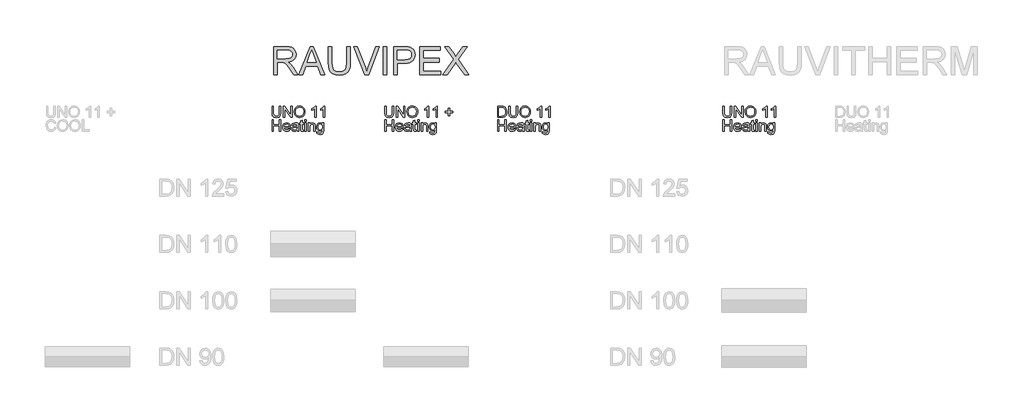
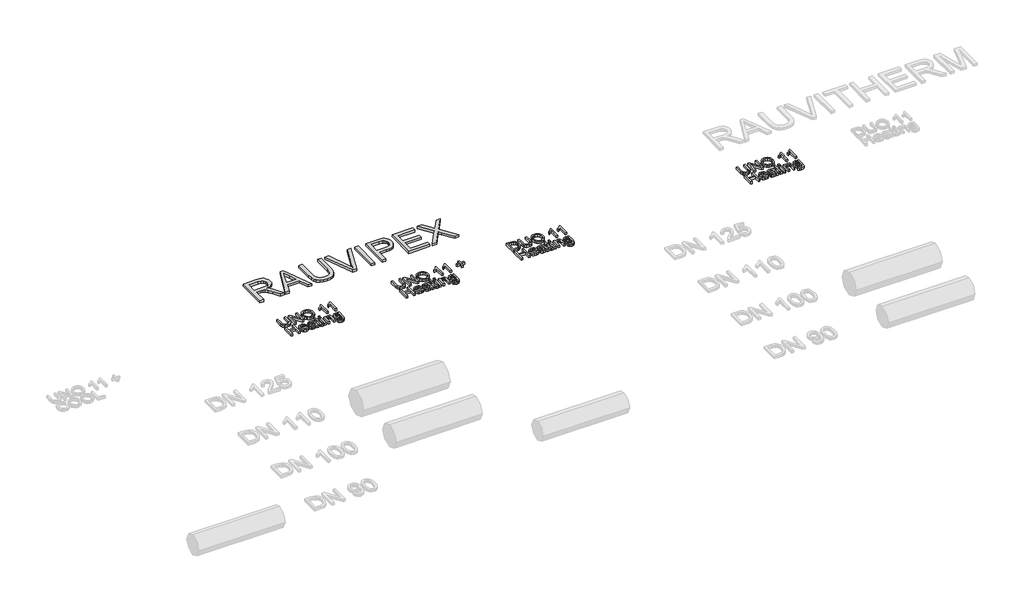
# One storey, part 38 of 44: 5 proxies.
"""IFC4 building model written with IfcOpenShell, lengths in millimetres."""

import ifcopenshell
import ifcopenshell.guid

model = None  # the IFC model being written
_history = None  # IfcOwnerHistory: only IFC2X3 demands one
_inside = {}  # id of a spatial element -> (the spatial element, [elements in it])
_under = {}  # id of a project, library or spatial element -> (it, [spatial elements below it])
_declared = {}  # id of a project -> (the project, [libraries it declares])
_typed = {}  # id of a type object -> (the type object, [elements of that type])
_made_of = {}  # id of a material, layer set ... -> (it, [elements and type objects made of it])


def new_model(schema):
    """Start an empty IFC model of exactly this schema.

    Asked for "IFC4X3", IfcOpenShell would pick the latest addendum, in which some entities
    have other attributes; the version numbers below select the first issue.
    IFC2X3 requires an IfcOwnerHistory on every rooted entity: one is made here for all.
    """
    global model, _history
    if schema == "IFC4X3":
        model = ifcopenshell.file(schema_version=(4, 3, 0, 0))
    else:
        model = ifcopenshell.file(schema=schema)
    _inside.clear()
    _under.clear()
    _declared.clear()
    _typed.clear()
    _made_of.clear()
    _history = None
    if model.schema == "IFC2X3":
        org = make("IfcOrganization", Name="unknown")
        user = make(
            "IfcPersonAndOrganization",
            ThePerson=make("IfcPerson", FamilyName="unknown"),
            TheOrganization=org,
        )
        app = make(
            "IfcApplication",
            ApplicationDeveloper=org,
            Version="unknown",
            ApplicationFullName="unknown",
            ApplicationIdentifier="unknown",
        )
        _history = make(
            "IfcOwnerHistory",
            OwningUser=user,
            OwningApplication=app,
            ChangeAction="ADDED",
            CreationDate=0,
        )
    return model


def make(cls, **values):
    """One entity of the class cls with the attributes given. An attribute that is None is left unset."""
    return model.create_entity(
        cls, **{name: value for name, value in values.items() if value is not None}
    )


def rooted(cls, **values):
    """An entity with a GlobalId (a new one), such as an element, a storey or a relation."""
    return make(cls, GlobalId=ifcopenshell.guid.new(), OwnerHistory=_history, **values)


def si_unit(unit_type, name, prefix=None):
    """IfcSIUnit, for example si_unit("LENGTHUNIT", "METRE", prefix="MILLI")."""
    return make("IfcSIUnit", UnitType=unit_type, Prefix=prefix, Name=name)


def assignment(units):
    """IfcUnitAssignment: the units of a project."""
    return None if units is None else make("IfcUnitAssignment", Units=units)


def point(xyz):
    """IfcCartesianPoint."""
    return None if xyz is None else make("IfcCartesianPoint", Coordinates=xyz)


def direction(xyz):
    """IfcDirection."""
    return None if xyz is None else make("IfcDirection", DirectionRatios=xyz)


def frame(location, z_axis=None, x_axis=None):
    """IfcAxis2Placement3D, a coordinate frame: its origin and axes. An axis left out is left unset."""
    return make(
        "IfcAxis2Placement3D",
        Location=point(location),
        Axis=direction(z_axis),
        RefDirection=direction(x_axis),
    )


def origin():
    """The frame at (0, 0, 0) with its axes left unset."""
    return frame((0.0, 0.0, 0.0))


def origin_with_axes():
    """The frame at (0, 0, 0) with the z axis (0, 0, 1) and the x axis (1, 0, 0) written out."""
    return frame((0.0, 0.0, 0.0), z_axis=(0.0, 0.0, 1.0), x_axis=(1.0, 0.0, 0.0))


def place(relative_to, where):
    """IfcLocalPlacement: puts the frame where relative to a parent placement (None: the world)."""
    return make(
        "IfcLocalPlacement", PlacementRelTo=relative_to, RelativePlacement=where
    )


def context(
    kind, dimensions, precision=None, world=None, true_north=None, identifier=None
):
    """IfcGeometricRepresentationContext, for example the 3D "Model" context."""
    return make(
        "IfcGeometricRepresentationContext",
        ContextIdentifier=identifier,
        ContextType=kind,
        CoordinateSpaceDimension=dimensions,
        Precision=precision,
        WorldCoordinateSystem=world,
        TrueNorth=true_north,
    )


def project(units=None, contexts=None):
    """IfcProject with its units and contexts."""
    return rooted(
        "IfcProject",
        Name="project",
        RepresentationContexts=contexts,
        UnitsInContext=assignment(units),
    )


def spatial(cls, under=None, at=None, **own):
    """A site, building, storey or space (cls), placed at a placement, below another one or the project."""
    s = rooted(cls, ObjectPlacement=at, **own)
    if under is not None:
        _under.setdefault(under.id(), (under, []))[1].append(s)
    return s


def polyline(points):
    """IfcPolyline through the points."""
    return make("IfcPolyline", Points=[point(p) for p in points])


def outline(outer, holes=None, kind="AREA"):
    """IfcArbitraryClosedProfileDef: a profile drawn as a closed curve; with holes, ...WithVoids."""
    if holes is None:
        return make("IfcArbitraryClosedProfileDef", ProfileType=kind, OuterCurve=outer)
    return make(
        "IfcArbitraryProfileDefWithVoids",
        ProfileType=kind,
        OuterCurve=outer,
        InnerCurves=holes,
    )


def extrude(swept, where, along, depth):
    """IfcExtrudedAreaSolid: the profile swept, set in the frame where, extruded along a direction by depth."""
    return make(
        "IfcExtrudedAreaSolid",
        SweptArea=swept,
        Position=where,
        ExtrudedDirection=direction(along),
        Depth=depth,
    )


def shape(context_of_items, identifier, shape_type, items):
    """IfcShapeRepresentation: the items that make up one representation, for example the "Body"."""
    return make(
        "IfcShapeRepresentation",
        ContextOfItems=context_of_items,
        RepresentationIdentifier=identifier,
        RepresentationType=shape_type,
        Items=items,
    )


def made_of(thing, what):
    """Note that an element or type object is made of a material, layer set ...; save() writes the relation."""
    if what is not None:
        _made_of.setdefault(what.id(), (what, []))[1].append(thing)
    return thing


def element(
    cls,
    number,
    at=None,
    inside=None,
    cuts=None,
    type_object=None,
    material=None,
    context=None,
    identifier="Body",
    shape_type=None,
    held_by="IfcProductDefinitionShape",
    body=None,
    shapes=None,
    **own,
):
    """One element of the class cls, such as IfcWall. Its Tag is "e" and its number.

    at: its placement. inside: the storey or other place that contains it. cuts: it is an
    opening in that element (IfcRelVoidsElement). A single representation is given by context,
    identifier, shape_type and body (its items); several are given by shapes. held_by: the class
    of the entity that holds the representations. save() writes the other relations.
    """
    e = rooted(cls, Tag="e%d" % number, ObjectPlacement=at, **own)
    if body is not None:
        shapes = [shape(context, identifier, shape_type, body)]
    if shapes is not None:
        e.Representation = make(held_by, Representations=shapes)
    if inside is not None:
        _inside.setdefault(inside.id(), (inside, []))[1].append(e)
    if cuts is not None:
        rooted(
            "IfcRelVoidsElement", RelatingBuildingElement=cuts, RelatedOpeningElement=e
        )
    if type_object is not None:
        _typed.setdefault(type_object.id(), (type_object, []))[1].append(e)
    return made_of(e, material)


def aggregate(whole, parts):
    """IfcRelAggregates: a whole, such as a stair, and the parts it consists of."""
    return rooted("IfcRelAggregates", RelatingObject=whole, RelatedObjects=parts)


def save(model, path):
    """Write the relations noted so far, then the file.

    IfcRelAggregates (storeys below a building ...), IfcRelContainedInSpatialStructure (elements
    in a storey), IfcRelDefinesByType, IfcRelAssociatesMaterial and IfcRelDeclares: one each for
    every whole, place, type object, material and project.
    """
    for whole, parts in _under.values():
        aggregate(whole, parts)
    for where, things in _inside.values():
        rooted(
            "IfcRelContainedInSpatialStructure",
            RelatedElements=things,
            RelatingStructure=where,
        )
    for kind, things in _typed.values():
        rooted("IfcRelDefinesByType", RelatedObjects=things, RelatingType=kind)
    for what, things in _made_of.values():
        rooted("IfcRelAssociatesMaterial", RelatedObjects=things, RelatingMaterial=what)
    for by, libraries in _declared.values():
        rooted("IfcRelDeclares", RelatingContext=by, RelatedDefinitions=libraries)
    model.write(path)


model = new_model("IFC4")

# Units and contexts
model_context = context("Model", 3, world=origin())
ifc_project = project(units=[si_unit("LENGTHUNIT", "METRE", prefix="MILLI")], contexts=[model_context])

# Site, building, storey
site = spatial("IfcSite", under=ifc_project)
building = spatial("IfcBuilding", under=site)
storey = spatial("IfcBuildingStorey", under=building, Name="REHAU Starting view", Elevation=0.0)

# Proxies
placement = place(None, origin())
element("IfcBuildingElementProxy", 1, Name="100", ObjectType="100", at=placement, inside=storey, context=model_context, shape_type="SweptSolid", body=[
    extrude(outline(polyline([(27076.9118625, 20222.431128), (27089.4689012, 20222.431128), (27089.4689012, 20164.477451), (27086.0598614, 20140.4547567), (27073.7726028, 20125.9847316), (27063.5086951, 20121.8000739), (27050.4734097, 20120.405188), (27027.529836, 20125.2612303), (27019.8901532, 20131.2055902), (27014.8011189, 20139.3265853), (27010.9874089, 20164.477451), (27010.9874089, 20222.431128), (27023.5444477, 20222.431128), (27023.5444477, 20164.9189094), (27026.0215198, 20145.7767829), (27034.5318566, 20136.2976902), (27049.2961874, 20132.9622268), (27062.067824, 20134.6115644), (27070.5597667, 20139.5595772), (27075.3238385, 20149.1980855), (27076.9118625, 20164.9189094), (27076.9118625, 20222.431128)])), origin_with_axes(), (0.0, 0.0, 1.0), 20.0),
    extrude(outline(polyline([(27111.4437191, 20121.9748178), (27111.4437191, 20222.431128), (27124.8836746, 20222.431128), (27177.3681726, 20142.8459897), (27177.3681726, 20222.431128), (27189.9252114, 20222.431128), (27189.9252114, 20121.9748178), (27176.4852558, 20121.9748178), (27124.0007578, 20201.5844816), (27124.0007578, 20121.9748178), (27111.4437191, 20121.9748178)])), origin_with_axes(), (0.0, 0.0, 1.0), 20.0),
    extrude(outline(polyline([(27207.1911397, 20170.8785977), (27210.5388658, 20193.0925389), (27220.5820443, 20209.8986147), (27235.9165921, 20220.4752221), (27255.1384264, 20224.0007578), (27268.3147332, 20222.3452889), (27280.1298766, 20217.3788819), (27289.9400631, 20209.4510249), (27297.1014993, 20198.9112058), (27301.479295, 20186.2683279), (27302.9385603, 20172.0312947), (27301.402653, 20157.6041891), (27296.794931, 20144.7835015), (27289.369846, 20134.2252883), (27279.3818499, 20126.5856055), (27267.667874, 20121.9502924), (27255.06485, 20120.405188), (27241.6862081, 20122.1127736), (27229.8036197, 20127.2355304), (27220.0179586, 20135.3105402), (27212.9300988, 20145.8748848), (27207.1911397, 20170.8785977)]), holes=[polyline([(27219.7481785, 20170.7559704), (27222.2589731, 20155.0412778), (27229.7913569, 20143.0667189), (27241.1129253, 20135.4883498), (27254.9912736, 20132.9622268), (27269.071957, 20135.5128753), (27280.4119195, 20143.1648208), (27287.889121, 20155.5072617), (27290.3815215, 20172.1293965), (27286.1140904, 20192.8534156), (27273.6428907, 20206.575414), (27255.2120028, 20211.4437191), (27241.7046022, 20209.0984714), (27230.2205526, 20202.0627282), (27222.366272, 20189.5455433), (27219.7481785, 20170.7559704)])]), origin_with_axes(), (0.0, 0.0, 1.0), 20.0),
    extrude(outline(polyline([(27401.8252406, 20121.9748178), (27389.2682018, 20121.9748178), (27389.2682018, 20200.2601064), (27377.3733507, 20191.7865578), (27364.1541243, 20185.4467247), (27364.1541243, 20197.3170505), (27382.5604868, 20209.0647488), (27393.7318367, 20222.431128), (27401.8252406, 20222.431128), (27401.8252406, 20121.9748178)])), origin_with_axes(), (0.0, 0.0, 1.0), 20.0),
    extrude(outline(polyline([(27478.7371031, 20121.9748178), (27466.1800643, 20121.9748178), (27466.1800643, 20200.2601064), (27454.2852131, 20191.7865578), (27441.0659868, 20185.4467247), (27441.0659868, 20197.3170505), (27459.4723492, 20209.0647488), (27470.6436992, 20222.431128), (27478.7371031, 20222.431128), (27478.7371031, 20121.9748178)])), origin_with_axes(), (0.0, 0.0, 1.0), 20.0),
    extrude(outline(polyline([(27010.9874089, 20000.0), (27010.9874089, 20100.4563101), (27023.5444477, 20100.4563101), (27023.5444477, 20059.6459342), (27076.9118625, 20059.6459342), (27076.9118625, 20100.4563101), (27089.4689012, 20100.4563101), (27089.4689012, 20000.0), (27076.9118625, 20000.0), (27076.9118625, 20047.0888954), (27023.5444477, 20047.0888954), (27023.5444477, 20000.0), (27010.9874089, 20000.0)])), origin_with_axes(), (0.0, 0.0, 1.0), 20.0),
    extrude(outline(polyline([(27161.5247213, 20021.9748178), (27173.8365055, 20020.405188), (27169.4004617, 20011.1284304), (27162.321799, 20004.1938547), (27152.7599328, 19999.8712413), (27140.8742787, 19998.4303702), (27126.1406048, 20000.9166393), (27114.803708, 20008.3754468), (27107.5748268, 20020.3224146), (27105.1651997, 20036.2731647), (27107.5993522, 20052.7604095), (27114.9018098, 20065.0905877), (27126.0854225, 20072.7793214), (27140.1630402, 20075.3422326), (27153.8022651, 20072.7854527), (27164.7007692, 20065.1151131), (27171.846877, 20052.8094604), (27174.2289129, 20036.3467411), (27174.1553365, 20032.9622268), (27117.7222385, 20032.9622268), (27119.8958079, 20023.5628418), (27124.9449883, 20016.6527916), (27132.2321175, 20012.4037546), (27141.1195333, 20010.9874089), (27153.4313175, 20013.6116338), (27161.5247213, 20021.9748178)]), holes=[polyline([(27117.7222385, 20045.5192655), (27161.6718741, 20045.5192655), (27156.6441535, 20056.8990819), (27149.3233018, 20061.3136659), (27140.1139892, 20062.7851938), (27124.6506827, 20058.088567), (27119.7854433, 20052.5979283), (27117.7222385, 20045.5192655)])]), origin_with_axes(), (0.0, 0.0, 1.0), 20.0),
    extrude(outline(polyline([(27233.8748471, 20009.4177791), (27221.697953, 20000.9074423), (27208.2457347, 19998.4303702), (27197.7519008, 19999.9202922), (27190.0110505, 20004.3900585), (27185.2377816, 20011.1774813), (27183.646692, 20019.6203731), (27186.0501877, 20029.5531869), (27192.3654953, 20036.7636741), (27201.157875, 20040.8839524), (27212.0226566, 20042.7724133), (27233.8012707, 20047.0888954), (27233.8748471, 20049.8847985), (27230.4167563, 20059.1554248), (27216.5353424, 20062.7851938), (27203.8311508, 20060.3694354), (27197.7733606, 20051.7977849), (27185.2163218, 20053.3674148), (27190.6487126, 20065.6301479), (27201.5870706, 20072.8161096), (27218.1540231, 20075.3422326), (27233.372075, 20073.1104152), (27241.968251, 20067.5063461), (27245.8187492, 20058.9837466), (27246.4318858, 20047.9963376), (27246.4318858, 20032.3736156), (27247.069548, 20010.5582133), (27249.5711455, 20000.0), (27237.0141068, 20000.0), (27233.8748471, 20009.4177791)]), holes=[polyline([(27233.8748471, 20034.5318566), (27213.6168119, 20030.6813584), (27202.8133439, 20028.6457447), (27197.9205134, 20025.3348067), (27196.2037308, 20020.5032899), (27199.9438644, 20013.7097357), (27210.9190106, 20010.9874089), (27223.6232021, 20013.9917785), (27231.8147079, 20021.2635793), (27233.8012707, 20030.975664), (27233.8748471, 20034.5318566)])]), origin_with_axes(), (0.0, 0.0, 1.0), 20.0),
    extrude(outline(polyline([(27290.3815215, 20010.4723741), (27291.9511514, 19999.632118), (27282.5578978, 19998.4303702), (27272.0364727, 20000.5150348), (27266.7880229, 20005.9842138), (27265.267444, 20020.2335097), (27265.267444, 20061.215564), (27255.8496649, 20061.215564), (27255.8496649, 20073.7726028), (27265.267444, 20073.7726028), (27265.267444, 20091.7007187), (27277.8244828, 20099.082884), (27277.8244828, 20073.7726028), (27290.3815215, 20073.7726028), (27290.3815215, 20061.215564), (27277.8244828, 20061.215564), (27277.8244828, 20020.6013917), (27278.4866703, 20014.1266686), (27280.6326487, 20011.8335375), (27284.9123425, 20010.9874089), (27290.3815215, 20010.4723741)])), origin_with_axes(), (0.0, 0.0, 1.0), 20.0),
    extrude(outline(polyline([(27302.9385603, 20087.8992714), (27302.9385603, 20100.4563101), (27315.4955991, 20100.4563101), (27315.4955991, 20087.8992714), (27302.9385603, 20087.8992714)])), origin_with_axes(), (0.0, 0.0, 1.0), 20.0),
    extrude(outline(polyline([(27302.9385603, 20000.0), (27302.9385603, 20073.7726028), (27315.4955991, 20073.7726028), (27315.4955991, 20000.0), (27302.9385603, 20000.0)])), origin_with_axes(), (0.0, 0.0, 1.0), 20.0),
    extrude(outline(polyline([(27334.3311572, 20000.0), (27334.3311572, 20073.7726028), (27346.888196, 20073.7726028), (27346.888196, 20063.4719069), (27356.4899161, 20072.3746512), (27369.5987778, 20075.3422326), (27381.4568408, 20072.9509996), (27389.5502447, 20066.6724803), (27393.3149038, 20057.4386422), (27393.9770914, 20045.2985363), (27393.9770914, 20000.0), (27381.4200526, 20000.0), (27381.4200526, 20043.6062792), (27379.9730501, 20054.7163154), (27374.8594904, 20060.5901646), (27366.2387889, 20062.7851938), (27352.6148924, 20057.8555751), (27348.3198701, 20050.712533), (27346.888196, 20039.1426443), (27346.888196, 20000.0), (27334.3311572, 20000.0)])), origin_with_axes(), (0.0, 0.0, 1.0), 20.0),
    extrude(outline(polyline([(27408.10376, 19993.7214806), (27420.6607988, 19992.1518508), (27424.7320262, 19985.5299749), (27436.9211829, 19982.7340717), (27449.7725273, 19985.8978569), (27455.9038939, 19994.7760757), (27456.7622852, 20009.4177791), (27447.9208546, 20002.3544448), (27437.1419121, 20000.0), (27424.1955316, 20002.7407209), (27414.5416949, 20010.9628835), (27408.5360213, 20023.0171502), (27406.5341301, 20037.2541834), (27410.127111, 20056.7151409), (27420.5259087, 20070.4861903), (27436.5287755, 20075.3422326), (27447.7307822, 20072.5953804), (27456.7622852, 20064.3548237), (27456.7622852, 20073.7726028), (27469.319324, 20073.7726028), (27469.319324, 20010.0799667), (27465.8857587, 19985.6893904), (27455.0087144, 19974.3463622), (27436.6759283, 19970.1770329), (27424.9926092, 19971.6454952), (27415.7924937, 19976.0508821), (27409.8910533, 19983.4054563), (27408.10376, 19993.7214806)]), holes=[polyline([(27419.0911689, 20038.1125747), (27420.4308725, 20026.5948026), (27424.4499833, 20018.6761426), (27430.4924451, 20014.0868147), (27437.9022016, 20012.5570388), (27445.2567758, 20014.0776177), (27451.3298944, 20018.6393544), (27455.4041875, 20026.4568468), (27456.7622852, 20037.7446927), (27455.3643336, 20048.6309341), (27451.1704789, 20056.4698863), (27445.0084555, 20061.2063669), (27437.7059979, 20062.7851938), (27430.5353646, 20061.2308924), (27424.5235597, 20056.5679881), (27420.4492666, 20048.8455319), (27419.0911689, 20038.1125747)])]), origin_with_axes(), (0.0, 0.0, 1.0), 20.0),
])
element("IfcBuildingElementProxy", 2, Name="100", ObjectType="100", at=placement, inside=storey, context=model_context, shape_type="SweptSolid", body=[
    extrude(outline(polyline([(28076.9118625, 20222.431128), (28089.4689012, 20222.431128), (28089.4689012, 20164.477451), (28086.0598614, 20140.4547567), (28073.7726028, 20125.9847316), (28063.5086951, 20121.8000739), (28050.4734097, 20120.405188), (28027.529836, 20125.2612303), (28019.8901532, 20131.2055902), (28014.8011189, 20139.3265853), (28010.9874089, 20164.477451), (28010.9874089, 20222.431128), (28023.5444477, 20222.431128), (28023.5444477, 20164.9189094), (28026.0215198, 20145.7767829), (28034.5318566, 20136.2976902), (28049.2961874, 20132.9622268), (28062.067824, 20134.6115644), (28070.5597667, 20139.5595772), (28075.3238385, 20149.1980855), (28076.9118625, 20164.9189094), (28076.9118625, 20222.431128)])), origin_with_axes(), (0.0, 0.0, 1.0), 20.0),
    extrude(outline(polyline([(28111.4437191, 20121.9748178), (28111.4437191, 20222.431128), (28124.8836746, 20222.431128), (28177.3681726, 20142.8459897), (28177.3681726, 20222.431128), (28189.9252114, 20222.431128), (28189.9252114, 20121.9748178), (28176.4852558, 20121.9748178), (28124.0007578, 20201.5844816), (28124.0007578, 20121.9748178), (28111.4437191, 20121.9748178)])), origin_with_axes(), (0.0, 0.0, 1.0), 20.0),
    extrude(outline(polyline([(28207.1911397, 20170.8785977), (28210.5388658, 20193.0925389), (28220.5820443, 20209.8986147), (28235.9165921, 20220.4752221), (28255.1384264, 20224.0007578), (28268.3147332, 20222.3452889), (28280.1298766, 20217.3788819), (28289.9400631, 20209.4510249), (28297.1014993, 20198.9112058), (28301.479295, 20186.2683279), (28302.9385603, 20172.0312947), (28301.402653, 20157.6041891), (28296.794931, 20144.7835015), (28289.369846, 20134.2252883), (28279.3818499, 20126.5856055), (28267.667874, 20121.9502924), (28255.06485, 20120.405188), (28241.6862081, 20122.1127736), (28229.8036197, 20127.2355304), (28220.0179586, 20135.3105402), (28212.9300988, 20145.8748848), (28207.1911397, 20170.8785977)]), holes=[polyline([(28219.7481785, 20170.7559704), (28222.2589731, 20155.0412778), (28229.7913569, 20143.0667189), (28241.1129253, 20135.4883498), (28254.9912736, 20132.9622268), (28269.071957, 20135.5128753), (28280.4119195, 20143.1648208), (28287.889121, 20155.5072617), (28290.3815215, 20172.1293965), (28286.1140904, 20192.8534156), (28273.6428907, 20206.575414), (28255.2120028, 20211.4437191), (28241.7046022, 20209.0984714), (28230.2205526, 20202.0627282), (28222.366272, 20189.5455433), (28219.7481785, 20170.7559704)])]), origin_with_axes(), (0.0, 0.0, 1.0), 20.0),
    extrude(outline(polyline([(28401.8252406, 20121.9748178), (28389.2682018, 20121.9748178), (28389.2682018, 20200.2601064), (28377.3733507, 20191.7865578), (28364.1541243, 20185.4467247), (28364.1541243, 20197.3170505), (28382.5604868, 20209.0647488), (28393.7318367, 20222.431128), (28401.8252406, 20222.431128), (28401.8252406, 20121.9748178)])), origin_with_axes(), (0.0, 0.0, 1.0), 20.0),
    extrude(outline(polyline([(28478.7371031, 20121.9748178), (28466.1800643, 20121.9748178), (28466.1800643, 20200.2601064), (28454.2852131, 20191.7865578), (28441.0659868, 20185.4467247), (28441.0659868, 20197.3170505), (28459.4723492, 20209.0647488), (28470.6436992, 20222.431128), (28478.7371031, 20222.431128), (28478.7371031, 20121.9748178)])), origin_with_axes(), (0.0, 0.0, 1.0), 20.0),
    extrude(outline(polyline([(28576.0541535, 20137.6711163), (28576.0541535, 20164.3548237), (28549.3704461, 20164.3548237), (28549.3704461, 20176.9118625), (28576.0541535, 20176.9118625), (28576.0541535, 20203.5955698), (28588.6111923, 20203.5955698), (28588.6111923, 20176.9118625), (28615.2948997, 20176.9118625), (28615.2948997, 20164.3548237), (28588.6111923, 20164.3548237), (28588.6111923, 20137.6711163), (28576.0541535, 20137.6711163)])), origin_with_axes(), (0.0, 0.0, 1.0), 20.0),
    extrude(outline(polyline([(28010.9874089, 20000.0), (28010.9874089, 20100.4563101), (28023.5444477, 20100.4563101), (28023.5444477, 20059.6459342), (28076.9118625, 20059.6459342), (28076.9118625, 20100.4563101), (28089.4689012, 20100.4563101), (28089.4689012, 20000.0), (28076.9118625, 20000.0), (28076.9118625, 20047.0888954), (28023.5444477, 20047.0888954), (28023.5444477, 20000.0), (28010.9874089, 20000.0)])), origin_with_axes(), (0.0, 0.0, 1.0), 20.0),
    extrude(outline(polyline([(28161.5247213, 20021.9748178), (28173.8365055, 20020.405188), (28169.4004617, 20011.1284304), (28162.321799, 20004.1938547), (28152.7599328, 19999.8712413), (28140.8742787, 19998.4303702), (28126.1406048, 20000.9166393), (28114.803708, 20008.3754468), (28107.5748268, 20020.3224146), (28105.1651997, 20036.2731647), (28107.5993522, 20052.7604095), (28114.9018098, 20065.0905877), (28126.0854225, 20072.7793214), (28140.1630402, 20075.3422326), (28153.8022651, 20072.7854527), (28164.7007692, 20065.1151131), (28171.846877, 20052.8094604), (28174.2289129, 20036.3467411), (28174.1553365, 20032.9622268), (28117.7222385, 20032.9622268), (28119.8958079, 20023.5628418), (28124.9449883, 20016.6527916), (28132.2321175, 20012.4037546), (28141.1195333, 20010.9874089), (28153.4313175, 20013.6116338), (28161.5247213, 20021.9748178)]), holes=[polyline([(28117.7222385, 20045.5192655), (28161.6718741, 20045.5192655), (28156.6441535, 20056.8990819), (28149.3233018, 20061.3136659), (28140.1139892, 20062.7851938), (28124.6506827, 20058.088567), (28119.7854433, 20052.5979283), (28117.7222385, 20045.5192655)])]), origin_with_axes(), (0.0, 0.0, 1.0), 20.0),
    extrude(outline(polyline([(28233.8748471, 20009.4177791), (28221.697953, 20000.9074423), (28208.2457347, 19998.4303702), (28197.7519008, 19999.9202922), (28190.0110505, 20004.3900585), (28185.2377816, 20011.1774813), (28183.646692, 20019.6203731), (28186.0501877, 20029.5531869), (28192.3654953, 20036.7636741), (28201.157875, 20040.8839524), (28212.0226566, 20042.7724133), (28233.8012707, 20047.0888954), (28233.8748471, 20049.8847985), (28230.4167563, 20059.1554248), (28216.5353424, 20062.7851938), (28203.8311508, 20060.3694354), (28197.7733606, 20051.7977849), (28185.2163218, 20053.3674148), (28190.6487126, 20065.6301479), (28201.5870706, 20072.8161096), (28218.1540231, 20075.3422326), (28233.372075, 20073.1104152), (28241.968251, 20067.5063461), (28245.8187492, 20058.9837466), (28246.4318858, 20047.9963376), (28246.4318858, 20032.3736156), (28247.069548, 20010.5582133), (28249.5711455, 20000.0), (28237.0141068, 20000.0), (28233.8748471, 20009.4177791)]), holes=[polyline([(28233.8748471, 20034.5318566), (28213.6168119, 20030.6813584), (28202.8133439, 20028.6457447), (28197.9205134, 20025.3348067), (28196.2037308, 20020.5032899), (28199.9438644, 20013.7097357), (28210.9190106, 20010.9874089), (28223.6232021, 20013.9917785), (28231.8147079, 20021.2635793), (28233.8012707, 20030.975664), (28233.8748471, 20034.5318566)])]), origin_with_axes(), (0.0, 0.0, 1.0), 20.0),
    extrude(outline(polyline([(28290.3815215, 20010.4723741), (28291.9511514, 19999.632118), (28282.5578978, 19998.4303702), (28272.0364727, 20000.5150348), (28266.7880229, 20005.9842138), (28265.267444, 20020.2335097), (28265.267444, 20061.215564), (28255.8496649, 20061.215564), (28255.8496649, 20073.7726028), (28265.267444, 20073.7726028), (28265.267444, 20091.7007187), (28277.8244828, 20099.082884), (28277.8244828, 20073.7726028), (28290.3815215, 20073.7726028), (28290.3815215, 20061.215564), (28277.8244828, 20061.215564), (28277.8244828, 20020.6013917), (28278.4866703, 20014.1266686), (28280.6326487, 20011.8335375), (28284.9123425, 20010.9874089), (28290.3815215, 20010.4723741)])), origin_with_axes(), (0.0, 0.0, 1.0), 20.0),
    extrude(outline(polyline([(28302.9385603, 20087.8992714), (28302.9385603, 20100.4563101), (28315.4955991, 20100.4563101), (28315.4955991, 20087.8992714), (28302.9385603, 20087.8992714)])), origin_with_axes(), (0.0, 0.0, 1.0), 20.0),
    extrude(outline(polyline([(28302.9385603, 20000.0), (28302.9385603, 20073.7726028), (28315.4955991, 20073.7726028), (28315.4955991, 20000.0), (28302.9385603, 20000.0)])), origin_with_axes(), (0.0, 0.0, 1.0), 20.0),
    extrude(outline(polyline([(28334.3311572, 20000.0), (28334.3311572, 20073.7726028), (28346.888196, 20073.7726028), (28346.888196, 20063.4719069), (28356.4899161, 20072.3746512), (28369.5987778, 20075.3422326), (28381.4568408, 20072.9509996), (28389.5502447, 20066.6724803), (28393.3149038, 20057.4386422), (28393.9770914, 20045.2985363), (28393.9770914, 20000.0), (28381.4200526, 20000.0), (28381.4200526, 20043.6062792), (28379.9730501, 20054.7163154), (28374.8594904, 20060.5901646), (28366.2387889, 20062.7851938), (28352.6148924, 20057.8555751), (28348.3198701, 20050.712533), (28346.888196, 20039.1426443), (28346.888196, 20000.0), (28334.3311572, 20000.0)])), origin_with_axes(), (0.0, 0.0, 1.0), 20.0),
    extrude(outline(polyline([(28408.10376, 19993.7214806), (28420.6607988, 19992.1518508), (28424.7320262, 19985.5299749), (28436.9211829, 19982.7340717), (28449.7725273, 19985.8978569), (28455.9038939, 19994.7760757), (28456.7622852, 20009.4177791), (28447.9208546, 20002.3544448), (28437.1419121, 20000.0), (28424.1955316, 20002.7407209), (28414.5416949, 20010.9628835), (28408.5360213, 20023.0171502), (28406.5341301, 20037.2541834), (28410.127111, 20056.7151409), (28420.5259087, 20070.4861903), (28436.5287755, 20075.3422326), (28447.7307822, 20072.5953804), (28456.7622852, 20064.3548237), (28456.7622852, 20073.7726028), (28469.319324, 20073.7726028), (28469.319324, 20010.0799667), (28465.8857587, 19985.6893904), (28455.0087144, 19974.3463622), (28436.6759283, 19970.1770329), (28424.9926092, 19971.6454952), (28415.7924937, 19976.0508821), (28409.8910533, 19983.4054563), (28408.10376, 19993.7214806)]), holes=[polyline([(28419.0911689, 20038.1125747), (28420.4308725, 20026.5948026), (28424.4499833, 20018.6761426), (28430.4924451, 20014.0868147), (28437.9022016, 20012.5570388), (28445.2567758, 20014.0776177), (28451.3298944, 20018.6393544), (28455.4041875, 20026.4568468), (28456.7622852, 20037.7446927), (28455.3643336, 20048.6309341), (28451.1704789, 20056.4698863), (28445.0084555, 20061.2063669), (28437.7059979, 20062.7851938), (28430.5353646, 20061.2308924), (28424.5235597, 20056.5679881), (28420.4492666, 20048.8455319), (28419.0911689, 20038.1125747)])]), origin_with_axes(), (0.0, 0.0, 1.0), 20.0),
])
element("IfcBuildingElementProxy", 3, Name="100", ObjectType="100", at=placement, inside=storey, context=model_context, shape_type="SweptSolid", body=[
    extrude(outline(polyline([(29010.9874089, 20121.9748178), (29010.9874089, 20222.431128), (29045.6418929, 20222.431128), (29063.5700088, 20220.9841255), (29078.3343395, 20213.7981638), (29090.2291907, 20196.6303374), (29094.1777908, 20172.7425332), (29091.5045149, 20152.4722352), (29084.6373844, 20137.8427946), (29075.4648599, 20128.7315838), (29063.4596442, 20123.6916005), (29047.3096246, 20121.9748178), (29010.9874089, 20121.9748178)]), holes=[polyline([(29023.5444477, 20134.5318566), (29045.7645202, 20134.5318566), (29061.9268025, 20136.3467411), (29071.2464797, 20141.4725636), (29078.8861625, 20153.9437632), (29081.620752, 20172.9387369), (29080.2810484, 20186.6239471), (29076.2619376, 20196.7284393), (29063.2266522, 20207.863001), (29045.4211637, 20209.8740892), (29023.5444477, 20209.8740892), (29023.5444477, 20134.5318566)])]), origin_with_axes(), (0.0, 0.0, 1.0), 20.0),
    extrude(outline(polyline([(29177.3681726, 20222.431128), (29189.9252114, 20222.431128), (29189.9252114, 20164.477451), (29186.5161716, 20140.4547567), (29174.2289129, 20125.9847316), (29163.9650053, 20121.8000739), (29150.9297199, 20120.405188), (29127.9861461, 20125.2612303), (29120.3464634, 20131.2055902), (29115.2574291, 20139.3265853), (29111.4437191, 20164.477451), (29111.4437191, 20222.431128), (29124.0007578, 20222.431128), (29124.0007578, 20164.9189094), (29126.4778299, 20145.7767829), (29134.9881668, 20136.2976902), (29149.7524975, 20132.9622268), (29162.5241341, 20134.6115644), (29171.0160768, 20139.5595772), (29175.7801487, 20149.1980855), (29177.3681726, 20164.9189094), (29177.3681726, 20222.431128)])), origin_with_axes(), (0.0, 0.0, 1.0), 20.0),
    extrude(outline(polyline([(29207.1911397, 20170.8785977), (29210.5388658, 20193.0925389), (29220.5820443, 20209.8986147), (29235.9165921, 20220.4752221), (29255.1384264, 20224.0007578), (29268.3147332, 20222.3452889), (29280.1298766, 20217.3788819), (29289.9400631, 20209.4510249), (29297.1014993, 20198.9112058), (29301.479295, 20186.2683279), (29302.9385603, 20172.0312947), (29301.402653, 20157.6041891), (29296.794931, 20144.7835015), (29289.369846, 20134.2252883), (29279.3818499, 20126.5856055), (29267.667874, 20121.9502924), (29255.06485, 20120.405188), (29241.6862081, 20122.1127736), (29229.8036197, 20127.2355304), (29220.0179586, 20135.3105402), (29212.9300988, 20145.8748848), (29207.1911397, 20170.8785977)]), holes=[polyline([(29219.7481785, 20170.7559704), (29222.2589731, 20155.0412778), (29229.7913569, 20143.0667189), (29241.1129253, 20135.4883498), (29254.9912736, 20132.9622268), (29269.071957, 20135.5128753), (29280.4119195, 20143.1648208), (29287.889121, 20155.5072617), (29290.3815215, 20172.1293965), (29286.1140904, 20192.8534156), (29273.6428907, 20206.575414), (29255.2120028, 20211.4437191), (29241.7046022, 20209.0984714), (29230.2205526, 20202.0627282), (29222.366272, 20189.5455433), (29219.7481785, 20170.7559704)])]), origin_with_axes(), (0.0, 0.0, 1.0), 20.0),
    extrude(outline(polyline([(29401.8252406, 20121.9748178), (29389.2682018, 20121.9748178), (29389.2682018, 20200.2601064), (29377.3733507, 20191.7865578), (29364.1541243, 20185.4467247), (29364.1541243, 20197.3170505), (29382.5604868, 20209.0647488), (29393.7318367, 20222.431128), (29401.8252406, 20222.431128), (29401.8252406, 20121.9748178)])), origin_with_axes(), (0.0, 0.0, 1.0), 20.0),
    extrude(outline(polyline([(29478.7371031, 20121.9748178), (29466.1800643, 20121.9748178), (29466.1800643, 20200.2601064), (29454.2852131, 20191.7865578), (29441.0659868, 20185.4467247), (29441.0659868, 20197.3170505), (29459.4723492, 20209.0647488), (29470.6436992, 20222.431128), (29478.7371031, 20222.431128), (29478.7371031, 20121.9748178)])), origin_with_axes(), (0.0, 0.0, 1.0), 20.0),
    extrude(outline(polyline([(29010.9874089, 20000.0), (29010.9874089, 20100.4563101), (29023.5444477, 20100.4563101), (29023.5444477, 20059.6459342), (29076.9118625, 20059.6459342), (29076.9118625, 20100.4563101), (29089.4689012, 20100.4563101), (29089.4689012, 20000.0), (29076.9118625, 20000.0), (29076.9118625, 20047.0888954), (29023.5444477, 20047.0888954), (29023.5444477, 20000.0), (29010.9874089, 20000.0)])), origin_with_axes(), (0.0, 0.0, 1.0), 20.0),
    extrude(outline(polyline([(29161.5247213, 20021.9748178), (29173.8365055, 20020.405188), (29169.4004617, 20011.1284304), (29162.321799, 20004.1938547), (29152.7599328, 19999.8712413), (29140.8742787, 19998.4303702), (29126.1406048, 20000.9166393), (29114.803708, 20008.3754468), (29107.5748268, 20020.3224146), (29105.1651997, 20036.2731647), (29107.5993522, 20052.7604095), (29114.9018098, 20065.0905877), (29126.0854225, 20072.7793214), (29140.1630402, 20075.3422326), (29153.8022651, 20072.7854527), (29164.7007692, 20065.1151131), (29171.846877, 20052.8094604), (29174.2289129, 20036.3467411), (29174.1553365, 20032.9622268), (29117.7222385, 20032.9622268), (29119.8958079, 20023.5628418), (29124.9449883, 20016.6527916), (29132.2321175, 20012.4037546), (29141.1195333, 20010.9874089), (29153.4313175, 20013.6116338), (29161.5247213, 20021.9748178)]), holes=[polyline([(29117.7222385, 20045.5192655), (29161.6718741, 20045.5192655), (29156.6441535, 20056.8990819), (29149.3233018, 20061.3136659), (29140.1139892, 20062.7851938), (29124.6506827, 20058.088567), (29119.7854433, 20052.5979283), (29117.7222385, 20045.5192655)])]), origin_with_axes(), (0.0, 0.0, 1.0), 20.0),
    extrude(outline(polyline([(29233.8748471, 20009.4177791), (29221.697953, 20000.9074423), (29208.2457347, 19998.4303702), (29197.7519008, 19999.9202922), (29190.0110505, 20004.3900585), (29185.2377816, 20011.1774813), (29183.646692, 20019.6203731), (29186.0501877, 20029.5531869), (29192.3654953, 20036.7636741), (29201.157875, 20040.8839524), (29212.0226566, 20042.7724133), (29233.8012707, 20047.0888954), (29233.8748471, 20049.8847985), (29230.4167563, 20059.1554248), (29216.5353424, 20062.7851938), (29203.8311508, 20060.3694354), (29197.7733606, 20051.7977849), (29185.2163218, 20053.3674148), (29190.6487126, 20065.6301479), (29201.5870706, 20072.8161096), (29218.1540231, 20075.3422326), (29233.372075, 20073.1104152), (29241.968251, 20067.5063461), (29245.8187492, 20058.9837466), (29246.4318858, 20047.9963376), (29246.4318858, 20032.3736156), (29247.069548, 20010.5582133), (29249.5711455, 20000.0), (29237.0141068, 20000.0), (29233.8748471, 20009.4177791)]), holes=[polyline([(29233.8748471, 20034.5318566), (29213.6168119, 20030.6813584), (29202.8133439, 20028.6457447), (29197.9205134, 20025.3348067), (29196.2037308, 20020.5032899), (29199.9438644, 20013.7097357), (29210.9190106, 20010.9874089), (29223.6232021, 20013.9917785), (29231.8147079, 20021.2635793), (29233.8012707, 20030.975664), (29233.8748471, 20034.5318566)])]), origin_with_axes(), (0.0, 0.0, 1.0), 20.0),
    extrude(outline(polyline([(29290.3815215, 20010.4723741), (29291.9511514, 19999.632118), (29282.5578978, 19998.4303702), (29272.0364727, 20000.5150348), (29266.7880229, 20005.9842138), (29265.267444, 20020.2335097), (29265.267444, 20061.215564), (29255.8496649, 20061.215564), (29255.8496649, 20073.7726028), (29265.267444, 20073.7726028), (29265.267444, 20091.7007187), (29277.8244828, 20099.082884), (29277.8244828, 20073.7726028), (29290.3815215, 20073.7726028), (29290.3815215, 20061.215564), (29277.8244828, 20061.215564), (29277.8244828, 20020.6013917), (29278.4866703, 20014.1266686), (29280.6326487, 20011.8335375), (29284.9123425, 20010.9874089), (29290.3815215, 20010.4723741)])), origin_with_axes(), (0.0, 0.0, 1.0), 20.0),
    extrude(outline(polyline([(29302.9385603, 20087.8992714), (29302.9385603, 20100.4563101), (29315.4955991, 20100.4563101), (29315.4955991, 20087.8992714), (29302.9385603, 20087.8992714)])), origin_with_axes(), (0.0, 0.0, 1.0), 20.0),
    extrude(outline(polyline([(29302.9385603, 20000.0), (29302.9385603, 20073.7726028), (29315.4955991, 20073.7726028), (29315.4955991, 20000.0), (29302.9385603, 20000.0)])), origin_with_axes(), (0.0, 0.0, 1.0), 20.0),
    extrude(outline(polyline([(29334.3311572, 20000.0), (29334.3311572, 20073.7726028), (29346.888196, 20073.7726028), (29346.888196, 20063.4719069), (29356.4899161, 20072.3746512), (29369.5987778, 20075.3422326), (29381.4568408, 20072.9509996), (29389.5502447, 20066.6724803), (29393.3149038, 20057.4386422), (29393.9770914, 20045.2985363), (29393.9770914, 20000.0), (29381.4200526, 20000.0), (29381.4200526, 20043.6062792), (29379.9730501, 20054.7163154), (29374.8594904, 20060.5901646), (29366.2387889, 20062.7851938), (29352.6148924, 20057.8555751), (29348.3198701, 20050.712533), (29346.888196, 20039.1426443), (29346.888196, 20000.0), (29334.3311572, 20000.0)])), origin_with_axes(), (0.0, 0.0, 1.0), 20.0),
    extrude(outline(polyline([(29408.10376, 19993.7214806), (29420.6607988, 19992.1518508), (29424.7320262, 19985.5299749), (29436.9211829, 19982.7340717), (29449.7725273, 19985.8978569), (29455.9038939, 19994.7760757), (29456.7622852, 20009.4177791), (29447.9208546, 20002.3544448), (29437.1419121, 20000.0), (29424.1955316, 20002.7407209), (29414.5416949, 20010.9628835), (29408.5360213, 20023.0171502), (29406.5341301, 20037.2541834), (29410.127111, 20056.7151409), (29420.5259087, 20070.4861903), (29436.5287755, 20075.3422326), (29447.7307822, 20072.5953804), (29456.7622852, 20064.3548237), (29456.7622852, 20073.7726028), (29469.319324, 20073.7726028), (29469.319324, 20010.0799667), (29465.8857587, 19985.6893904), (29455.0087144, 19974.3463622), (29436.6759283, 19970.1770329), (29424.9926092, 19971.6454952), (29415.7924937, 19976.0508821), (29409.8910533, 19983.4054563), (29408.10376, 19993.7214806)]), holes=[polyline([(29419.0911689, 20038.1125747), (29420.4308725, 20026.5948026), (29424.4499833, 20018.6761426), (29430.4924451, 20014.0868147), (29437.9022016, 20012.5570388), (29445.2567758, 20014.0776177), (29451.3298944, 20018.6393544), (29455.4041875, 20026.4568468), (29456.7622852, 20037.7446927), (29455.3643336, 20048.6309341), (29451.1704789, 20056.4698863), (29445.0084555, 20061.2063669), (29437.7059979, 20062.7851938), (29430.5353646, 20061.2308924), (29424.5235597, 20056.5679881), (29420.4492666, 20048.8455319), (29419.0911689, 20038.1125747)])]), origin_with_axes(), (0.0, 0.0, 1.0), 20.0),
])
element("IfcBuildingElementProxy", 4, Name="100", ObjectType="100", at=placement, inside=storey, context=model_context, shape_type="SweptSolid", body=[
    extrude(outline(polyline([(31076.9118625, 20222.431128), (31089.4689012, 20222.431128), (31089.4689012, 20164.477451), (31086.0598614, 20140.4547567), (31073.7726028, 20125.9847316), (31063.5086951, 20121.8000739), (31050.4734097, 20120.405188), (31027.529836, 20125.2612303), (31019.8901532, 20131.2055902), (31014.8011189, 20139.3265853), (31010.9874089, 20164.477451), (31010.9874089, 20222.431128), (31023.5444477, 20222.431128), (31023.5444477, 20164.9189094), (31026.0215198, 20145.7767829), (31034.5318566, 20136.2976902), (31049.2961874, 20132.9622268), (31062.067824, 20134.6115644), (31070.5597667, 20139.5595772), (31075.3238385, 20149.1980855), (31076.9118625, 20164.9189094), (31076.9118625, 20222.431128)])), origin_with_axes(), (0.0, 0.0, 1.0), 20.0),
    extrude(outline(polyline([(31111.4437191, 20121.9748178), (31111.4437191, 20222.431128), (31124.8836746, 20222.431128), (31177.3681726, 20142.8459897), (31177.3681726, 20222.431128), (31189.9252114, 20222.431128), (31189.9252114, 20121.9748178), (31176.4852558, 20121.9748178), (31124.0007578, 20201.5844816), (31124.0007578, 20121.9748178), (31111.4437191, 20121.9748178)])), origin_with_axes(), (0.0, 0.0, 1.0), 20.0),
    extrude(outline(polyline([(31207.1911397, 20170.8785977), (31210.5388658, 20193.0925389), (31220.5820443, 20209.8986147), (31235.9165921, 20220.4752221), (31255.1384264, 20224.0007578), (31268.3147332, 20222.3452889), (31280.1298766, 20217.3788819), (31289.9400631, 20209.4510249), (31297.1014993, 20198.9112058), (31301.479295, 20186.2683279), (31302.9385603, 20172.0312947), (31301.402653, 20157.6041891), (31296.794931, 20144.7835015), (31289.369846, 20134.2252883), (31279.3818499, 20126.5856055), (31267.667874, 20121.9502924), (31255.06485, 20120.405188), (31241.6862081, 20122.1127736), (31229.8036197, 20127.2355304), (31220.0179586, 20135.3105402), (31212.9300988, 20145.8748848), (31207.1911397, 20170.8785977)]), holes=[polyline([(31219.7481785, 20170.7559704), (31222.2589731, 20155.0412778), (31229.7913569, 20143.0667189), (31241.1129253, 20135.4883498), (31254.9912736, 20132.9622268), (31269.071957, 20135.5128753), (31280.4119195, 20143.1648208), (31287.889121, 20155.5072617), (31290.3815215, 20172.1293965), (31286.1140904, 20192.8534156), (31273.6428907, 20206.575414), (31255.2120028, 20211.4437191), (31241.7046022, 20209.0984714), (31230.2205526, 20202.0627282), (31222.366272, 20189.5455433), (31219.7481785, 20170.7559704)])]), origin_with_axes(), (0.0, 0.0, 1.0), 20.0),
    extrude(outline(polyline([(31401.8252406, 20121.9748178), (31389.2682018, 20121.9748178), (31389.2682018, 20200.2601064), (31377.3733507, 20191.7865578), (31364.1541243, 20185.4467247), (31364.1541243, 20197.3170505), (31382.5604868, 20209.0647488), (31393.7318367, 20222.431128), (31401.8252406, 20222.431128), (31401.8252406, 20121.9748178)])), origin_with_axes(), (0.0, 0.0, 1.0), 20.0),
    extrude(outline(polyline([(31478.7371031, 20121.9748178), (31466.1800643, 20121.9748178), (31466.1800643, 20200.2601064), (31454.2852131, 20191.7865578), (31441.0659868, 20185.4467247), (31441.0659868, 20197.3170505), (31459.4723492, 20209.0647488), (31470.6436992, 20222.431128), (31478.7371031, 20222.431128), (31478.7371031, 20121.9748178)])), origin_with_axes(), (0.0, 0.0, 1.0), 20.0),
    extrude(outline(polyline([(31010.9874089, 20000.0), (31010.9874089, 20100.4563101), (31023.5444477, 20100.4563101), (31023.5444477, 20059.6459342), (31076.9118625, 20059.6459342), (31076.9118625, 20100.4563101), (31089.4689012, 20100.4563101), (31089.4689012, 20000.0), (31076.9118625, 20000.0), (31076.9118625, 20047.0888954), (31023.5444477, 20047.0888954), (31023.5444477, 20000.0), (31010.9874089, 20000.0)])), origin_with_axes(), (0.0, 0.0, 1.0), 20.0),
    extrude(outline(polyline([(31161.5247213, 20021.9748178), (31173.8365055, 20020.405188), (31169.4004617, 20011.1284304), (31162.321799, 20004.1938547), (31152.7599328, 19999.8712413), (31140.8742787, 19998.4303702), (31126.1406048, 20000.9166393), (31114.803708, 20008.3754468), (31107.5748268, 20020.3224146), (31105.1651997, 20036.2731647), (31107.5993522, 20052.7604095), (31114.9018098, 20065.0905877), (31126.0854225, 20072.7793214), (31140.1630402, 20075.3422326), (31153.8022651, 20072.7854527), (31164.7007692, 20065.1151131), (31171.846877, 20052.8094604), (31174.2289129, 20036.3467411), (31174.1553365, 20032.9622268), (31117.7222385, 20032.9622268), (31119.8958079, 20023.5628418), (31124.9449883, 20016.6527916), (31132.2321175, 20012.4037546), (31141.1195333, 20010.9874089), (31153.4313175, 20013.6116338), (31161.5247213, 20021.9748178)]), holes=[polyline([(31117.7222385, 20045.5192655), (31161.6718741, 20045.5192655), (31156.6441535, 20056.8990819), (31149.3233018, 20061.3136659), (31140.1139892, 20062.7851938), (31124.6506827, 20058.088567), (31119.7854433, 20052.5979283), (31117.7222385, 20045.5192655)])]), origin_with_axes(), (0.0, 0.0, 1.0), 20.0),
    extrude(outline(polyline([(31233.8748471, 20009.4177791), (31221.697953, 20000.9074423), (31208.2457347, 19998.4303702), (31197.7519008, 19999.9202922), (31190.0110505, 20004.3900585), (31185.2377816, 20011.1774813), (31183.646692, 20019.6203731), (31186.0501877, 20029.5531869), (31192.3654953, 20036.7636741), (31201.157875, 20040.8839524), (31212.0226566, 20042.7724133), (31233.8012707, 20047.0888954), (31233.8748471, 20049.8847985), (31230.4167563, 20059.1554248), (31216.5353424, 20062.7851938), (31203.8311508, 20060.3694354), (31197.7733606, 20051.7977849), (31185.2163218, 20053.3674148), (31190.6487126, 20065.6301479), (31201.5870706, 20072.8161096), (31218.1540231, 20075.3422326), (31233.372075, 20073.1104152), (31241.968251, 20067.5063461), (31245.8187492, 20058.9837466), (31246.4318858, 20047.9963376), (31246.4318858, 20032.3736156), (31247.069548, 20010.5582133), (31249.5711455, 20000.0), (31237.0141068, 20000.0), (31233.8748471, 20009.4177791)]), holes=[polyline([(31233.8748471, 20034.5318566), (31213.6168119, 20030.6813584), (31202.8133439, 20028.6457447), (31197.9205134, 20025.3348067), (31196.2037308, 20020.5032899), (31199.9438644, 20013.7097357), (31210.9190106, 20010.9874089), (31223.6232021, 20013.9917785), (31231.8147079, 20021.2635793), (31233.8012707, 20030.975664), (31233.8748471, 20034.5318566)])]), origin_with_axes(), (0.0, 0.0, 1.0), 20.0),
    extrude(outline(polyline([(31290.3815215, 20010.4723741), (31291.9511514, 19999.632118), (31282.5578978, 19998.4303702), (31272.0364727, 20000.5150348), (31266.7880229, 20005.9842138), (31265.267444, 20020.2335097), (31265.267444, 20061.215564), (31255.8496649, 20061.215564), (31255.8496649, 20073.7726028), (31265.267444, 20073.7726028), (31265.267444, 20091.7007187), (31277.8244828, 20099.082884), (31277.8244828, 20073.7726028), (31290.3815215, 20073.7726028), (31290.3815215, 20061.215564), (31277.8244828, 20061.215564), (31277.8244828, 20020.6013917), (31278.4866703, 20014.1266686), (31280.6326487, 20011.8335375), (31284.9123425, 20010.9874089), (31290.3815215, 20010.4723741)])), origin_with_axes(), (0.0, 0.0, 1.0), 20.0),
    extrude(outline(polyline([(31302.9385603, 20087.8992714), (31302.9385603, 20100.4563101), (31315.4955991, 20100.4563101), (31315.4955991, 20087.8992714), (31302.9385603, 20087.8992714)])), origin_with_axes(), (0.0, 0.0, 1.0), 20.0),
    extrude(outline(polyline([(31302.9385603, 20000.0), (31302.9385603, 20073.7726028), (31315.4955991, 20073.7726028), (31315.4955991, 20000.0), (31302.9385603, 20000.0)])), origin_with_axes(), (0.0, 0.0, 1.0), 20.0),
    extrude(outline(polyline([(31334.3311572, 20000.0), (31334.3311572, 20073.7726028), (31346.888196, 20073.7726028), (31346.888196, 20063.4719069), (31356.4899161, 20072.3746512), (31369.5987778, 20075.3422326), (31381.4568408, 20072.9509996), (31389.5502447, 20066.6724803), (31393.3149038, 20057.4386422), (31393.9770914, 20045.2985363), (31393.9770914, 20000.0), (31381.4200526, 20000.0), (31381.4200526, 20043.6062792), (31379.9730501, 20054.7163154), (31374.8594904, 20060.5901646), (31366.2387889, 20062.7851938), (31352.6148924, 20057.8555751), (31348.3198701, 20050.712533), (31346.888196, 20039.1426443), (31346.888196, 20000.0), (31334.3311572, 20000.0)])), origin_with_axes(), (0.0, 0.0, 1.0), 20.0),
    extrude(outline(polyline([(31408.10376, 19993.7214806), (31420.6607988, 19992.1518508), (31424.7320262, 19985.5299749), (31436.9211829, 19982.7340717), (31449.7725273, 19985.8978569), (31455.9038939, 19994.7760757), (31456.7622852, 20009.4177791), (31447.9208546, 20002.3544448), (31437.1419121, 20000.0), (31424.1955316, 20002.7407209), (31414.5416949, 20010.9628835), (31408.5360213, 20023.0171502), (31406.5341301, 20037.2541834), (31410.127111, 20056.7151409), (31420.5259087, 20070.4861903), (31436.5287755, 20075.3422326), (31447.7307822, 20072.5953804), (31456.7622852, 20064.3548237), (31456.7622852, 20073.7726028), (31469.319324, 20073.7726028), (31469.319324, 20010.0799667), (31465.8857587, 19985.6893904), (31455.0087144, 19974.3463622), (31436.6759283, 19970.1770329), (31424.9926092, 19971.6454952), (31415.7924937, 19976.0508821), (31409.8910533, 19983.4054563), (31408.10376, 19993.7214806)]), holes=[polyline([(31419.0911689, 20038.1125747), (31420.4308725, 20026.5948026), (31424.4499833, 20018.6761426), (31430.4924451, 20014.0868147), (31437.9022016, 20012.5570388), (31445.2567758, 20014.0776177), (31451.3298944, 20018.6393544), (31455.4041875, 20026.4568468), (31456.7622852, 20037.7446927), (31455.3643336, 20048.6309341), (31451.1704789, 20056.4698863), (31445.0084555, 20061.2063669), (31437.7059979, 20062.7851938), (31430.5353646, 20061.2308924), (31424.5235597, 20056.5679881), (31420.4492666, 20048.8455319), (31419.0911689, 20038.1125747)])]), origin_with_axes(), (0.0, 0.0, 1.0), 20.0),
])
element("IfcBuildingElementProxy", 5, Name="250", ObjectType="250", at=placement, inside=storey, context=model_context, shape_type="SweptSolid", body=[
    extrude(outline(polyline([(27027.4685223, 20500.0), (27027.4685223, 20751.1407754), (27135.6871426, 20751.1407754), (27164.7728128, 20749.4469854), (27185.9336917, 20744.3656153), (27201.4000639, 20734.9846244), (27213.402214, 20720.3919719), (27221.1047433, 20702.2967763), (27223.6722531, 20682.4081559), (27219.4186175, 20657.6680918), (27206.6577108, 20637.1586705), (27185.0063225, 20622.121494), (27154.0812423, 20613.7981638), (27171.9235191, 20600.370471), (27197.3686904, 20568.0581691), (27239.2459242, 20500.0), (27202.764293, 20500.0), (27170.0841091, 20552.0553023), (27146.4783477, 20586.5135825), (27129.8930011, 20602.7923608), (27114.9631235, 20608.7704432), (27096.7529647, 20609.8740892), (27058.8611192, 20609.8740892), (27058.8611192, 20500.0), (27027.4685223, 20500.0)]), holes=[polyline([(27058.8611192, 20641.2666861), (27129.1265803, 20641.2666861), (27164.964418, 20645.7119269), (27176.7519703, 20651.4907399), (27185.3205551, 20659.9366974), (27190.5398809, 20670.153087), (27192.2796561, 20681.2431963), (27188.961054, 20696.5562843), (27179.0052475, 20708.8956596), (27161.8757421, 20717.0350487), (27137.0360432, 20719.7481785), (27058.8611192, 20719.7481785), (27058.8611192, 20641.2666861)])]), origin_with_axes(), (0.0, 0.0, 1.0), 20.0),
    extrude(outline(polyline([(27249.3626791, 20500.0), (27349.6105227, 20751.1407754), (27376.3432811, 20751.1407754), (27476.5911248, 20500.0), (27443.4204315, 20500.0), (27414.6643222, 20578.4814923), (27311.2281679, 20578.4814923), (27282.5333723, 20500.0), (27249.3626791, 20500.0)]), holes=[polyline([(27322.7551371, 20609.8740892), (27403.1986667, 20609.8740892), (27380.573924, 20671.6169507), (27362.9769019, 20719.7481785), (27347.3419171, 20677.0125533), (27322.7551371, 20609.8740892)])]), origin_with_axes(), (0.0, 0.0, 1.0), 20.0),
    extrude(outline(polyline([(27674.9408338, 20751.1407754), (27706.3334307, 20751.1407754), (27706.3334307, 20606.2565829), (27704.2027809, 20572.3271331), (27697.8108312, 20546.1998472), (27685.8699948, 20526.0429796), (27667.0926846, 20510.0247844), (27641.4329154, 20499.5631401), (27608.844702, 20496.0759254), (27576.96926, 20499.1109518), (27551.4857676, 20508.2160312), (27532.3865607, 20523.076931), (27519.663975, 20543.3794186), (27512.5132687, 20570.6103504), (27510.1297, 20606.2565829), (27510.1297, 20751.1407754), (27541.5222969, 20751.1407754), (27541.5222969, 20607.3602289), (27543.070467, 20579.1482784), (27547.7149772, 20559.5049127), (27556.1302778, 20545.9009431), (27568.9908192, 20535.8071809), (27585.7601068, 20529.5531869), (27605.9016461, 20527.4685223), (27637.8307376, 20531.5918663), (27659.0605944, 20543.9618984), (27666.0081991, 20554.1093101), (27670.970774, 20568.0581691), (27674.9408338, 20607.3602289), (27674.9408338, 20751.1407754)])), origin_with_axes(), (0.0, 0.0, 1.0), 20.0),
    extrude(outline(polyline([(27835.460011, 20500.0), (27735.5187357, 20751.1407754), (27769.1186246, 20751.1407754), (27836.011834, 20570.2041474), (27849.5621542, 20529.4305596), (27862.9285334, 20570.2041474), (27930.0056838, 20751.1407754), (27963.6055727, 20751.1407754), (27867.8949403, 20500.0), (27835.460011, 20500.0)])), origin_with_axes(), (0.0, 0.0, 1.0), 20.0),
    extrude(outline(polyline([(27996.7149523, 20500.0), (27996.7149523, 20751.1407754), (28028.1075492, 20751.1407754), (28028.1075492, 20500.0), (27996.7149523, 20500.0)])), origin_with_axes(), (0.0, 0.0, 1.0), 20.0),
    extrude(outline(polyline([(28090.892743, 20500.0), (28090.892743, 20751.1407754), (28183.9668878, 20751.1407754), (28221.4908513, 20748.7495424), (28238.2218179, 20744.281309), (28251.9944001, 20737.0079754), (28263.0845094, 20726.5999806), (28271.7680573, 20712.7277637), (28277.3782578, 20696.3646791), (28279.2483246, 20678.4840813), (28274.1976113, 20648.8849091), (28259.0454717, 20624.221487), (28246.911114, 20614.5109352), (28230.7108938, 20607.5748268), (28210.4448112, 20603.4131617), (28186.1128661, 20602.02594), (28122.28534, 20602.02594), (28122.28534, 20500.0), (28090.892743, 20500.0)]), holes=[polyline([(28122.28534, 20633.4185369), (28187.9522761, 20633.4185369), (28215.7886804, 20636.3002792), (28234.1827802, 20644.9455061), (28244.4374908, 20658.817723), (28247.8557276, 20677.3804353), (28245.8400409, 20691.4825785), (28239.7929806, 20703.3774297), (28230.4656392, 20712.3292249), (28218.609109, 20717.6022001), (28187.2165121, 20719.7481785), (28122.28534, 20719.7481785), (28122.28534, 20633.4185369)])]), origin_with_axes(), (0.0, 0.0, 1.0), 20.0),
    extrude(outline(polyline([(28322.4131453, 20500.0), (28322.4131453, 20751.1407754), (28502.9205776, 20751.1407754), (28502.9205776, 20719.7481785), (28353.8057423, 20719.7481785), (28353.8057423, 20645.1907608), (28495.0724284, 20645.1907608), (28495.0724284, 20613.7981638), (28353.8057423, 20613.7981638), (28353.8057423, 20531.3925969), (28506.8446522, 20531.3925969), (28506.8446522, 20500.0), (28322.4131453, 20500.0)])), origin_with_axes(), (0.0, 0.0, 1.0), 20.0),
    extrude(outline(polyline([(28526.4650253, 20500.0), (28623.2793037, 20636.8521022), (28542.1613238, 20751.1407754), (28579.8079146, 20751.1407754), (28625.4865957, 20686.8227399), (28640.8763258, 20661.7454505), (28658.9025436, 20687.2519355), (28704.0907153, 20751.1407754), (28742.2891292, 20751.1407754), (28661.1711492, 20636.4842202), (28757.9854276, 20500.0), (28720.3388368, 20500.0), (28655.8368603, 20590.9894801), (28642.4091675, 20609.8740892), (28627.632574, 20589.1500702), (28564.6634392, 20500.0), (28526.4650253, 20500.0)])), origin_with_axes(), (0.0, 0.0, 1.0), 20.0),
])

save(model, "model.ifc")
